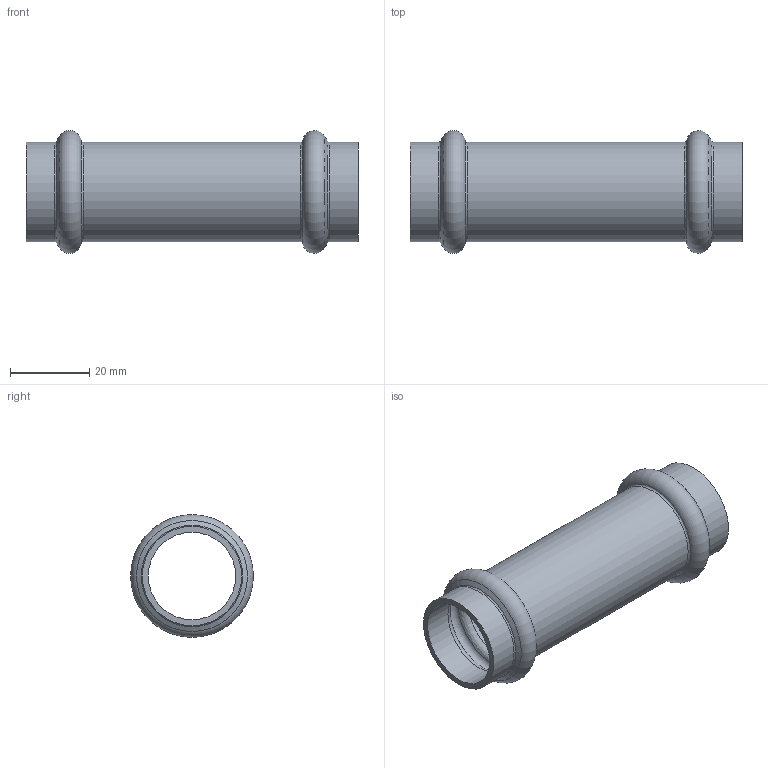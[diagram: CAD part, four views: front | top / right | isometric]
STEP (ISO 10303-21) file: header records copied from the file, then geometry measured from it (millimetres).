
FILE_DESCRIPTION((''),'2;1');
FILE_NAME('G:\Technics\CAD\Bauteile\022\69270S22(1).stp','2008-02-22T08:05:04',('herberg'),(''),'Autodesk Inventor 2008','Autodesk Inventor 2008','');
FILE_SCHEMA(('AUTOMOTIVE_DESIGN { 1 0 10303 214 1 1 1 1 }'));
Length unit declared in the file: millimetre
Products named in the file (1): 69270S22(1)
Bounding box: 84 x 31.1 x 31.1 mm (x, y, z)
Volume: 10301.8 mm3; surface area: 13957.6 mm2
Topology: 1 solids, 1 shells, 24 faces, 48 edges, 26 vertices
Faces by surface type: bspline 8, cylinder 6, cone 4, torus 4, plane 2
Full cylindrical faces by diameter (mm): 22.15 x3, 25.15 x3
Entity records: 834 total; most frequent: CARTESIAN_POINT 425, DIRECTION 82, ORIENTED_EDGE 48, EDGE_LOOP 48, AXIS2_PLACEMENT_3D 41, VERTEX_POINT 24, CIRCLE 24, EDGE_CURVE 24
